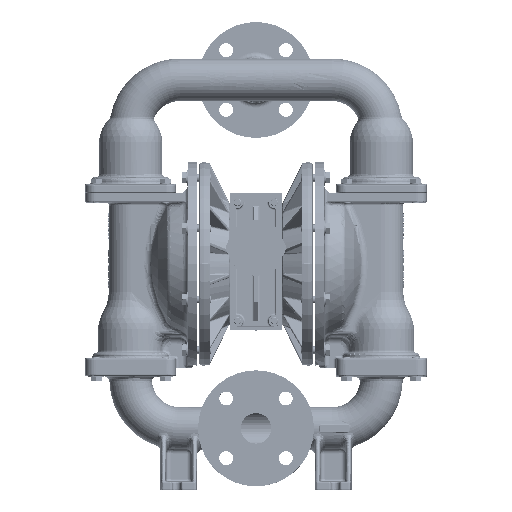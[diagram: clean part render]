
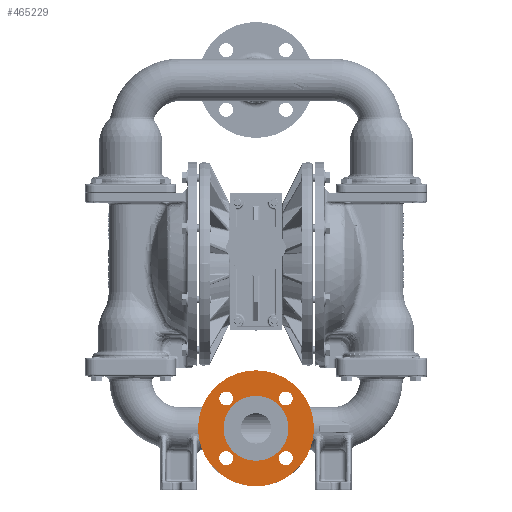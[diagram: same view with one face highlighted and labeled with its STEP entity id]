
A CAD part, top view. The second image highlights one B-rep face of the part: STEP entity #465229.
In plain terms, the highlighted planar face has unit normal (0, 0, 1).
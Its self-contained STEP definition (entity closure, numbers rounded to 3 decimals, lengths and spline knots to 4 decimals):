
#133894=CARTESIAN_POINT('',(0.,-8.385,4.75));
#133895=DIRECTION('',(0.,0.,-1.));
#133896=DIRECTION('',(0.,1.,0.));
#133897=AXIS2_PLACEMENT_3D('',#133894,#133895,#133896);
#133904=CARTESIAN_POINT('',(0.,-8.385,4.75));
#133905=DIRECTION('',(0.,0.,-1.));
#133906=DIRECTION('',(0.,1.,0.));
#133907=AXIS2_PLACEMENT_3D('',#133904,#133905,#133906);
#133909=CARTESIAN_POINT('',(0.,-8.385,4.75));
#133910=DIRECTION('',(0.,0.,1.));
#133911=DIRECTION('',(0.,1.,0.));
#133912=AXIS2_PLACEMENT_3D('',#133909,#133910,#133911);
#133914=CARTESIAN_POINT('',(1.5203,-6.8647,4.75));
#133915=DIRECTION('',(0.,0.,-1.));
#133916=DIRECTION('',(-1.,0.,0.));
#133917=AXIS2_PLACEMENT_3D('',#133914,#133915,#133916);
#133919=CARTESIAN_POINT('',(1.5203,-6.8647,4.75));
#133920=DIRECTION('',(0.,0.,-1.));
#133921=DIRECTION('',(1.,0.,0.));
#133922=AXIS2_PLACEMENT_3D('',#133919,#133920,#133921);
#133924=CARTESIAN_POINT('',(1.5203,-9.9053,4.75));
#133925=DIRECTION('',(0.,0.,-1.));
#133926=DIRECTION('',(-1.,0.,0.));
#133927=AXIS2_PLACEMENT_3D('',#133924,#133925,#133926);
#133929=CARTESIAN_POINT('',(1.5203,-9.9053,4.75));
#133930=DIRECTION('',(0.,0.,-1.));
#133931=DIRECTION('',(1.,0.,0.));
#133932=AXIS2_PLACEMENT_3D('',#133929,#133930,#133931);
#133934=CARTESIAN_POINT('',(-1.5203,-9.9053,4.75));
#133935=DIRECTION('',(0.,0.,-1.));
#133936=DIRECTION('',(-1.,0.,0.));
#133937=AXIS2_PLACEMENT_3D('',#133934,#133935,#133936);
#133939=CARTESIAN_POINT('',(-1.5203,-9.9053,4.75));
#133940=DIRECTION('',(0.,0.,-1.));
#133941=DIRECTION('',(1.,0.,0.));
#133942=AXIS2_PLACEMENT_3D('',#133939,#133940,#133941);
#133944=CARTESIAN_POINT('',(-1.5203,-6.8647,4.75));
#133945=DIRECTION('',(0.,0.,-1.));
#133946=DIRECTION('',(-1.,0.,0.));
#133947=AXIS2_PLACEMENT_3D('',#133944,#133945,#133946);
#133949=CARTESIAN_POINT('',(-1.5203,-6.8647,4.75));
#133950=DIRECTION('',(0.,0.,-1.));
#133951=DIRECTION('',(1.,0.,0.));
#133952=AXIS2_PLACEMENT_3D('',#133949,#133950,#133951);
#133954=CARTESIAN_POINT('',(0.,-8.385,4.75));
#133955=DIRECTION('',(0.,0.,-1.));
#133956=DIRECTION('',(0.,-1.,0.));
#133957=AXIS2_PLACEMENT_3D('',#133954,#133955,#133956);
#340038=CARTESIAN_POINT('',(0.,-6.73,4.75));
#340040=VERTEX_POINT('',#340038);
#340042=CARTESIAN_POINT('',(0.,-10.04,4.75));
#340044=VERTEX_POINT('',#340042);
#340045=CARTESIAN_POINT('',(0.,-5.43,4.75));
#340046=CARTESIAN_POINT('',(0.,-11.34,4.75));
#340047=VERTEX_POINT('',#340045);
#340048=VERTEX_POINT('',#340046);
#340053=CARTESIAN_POINT('',(1.1653,-6.8647,4.75));
#340054=CARTESIAN_POINT('',(1.8753,-6.8647,4.75));
#340055=VERTEX_POINT('',#340053);
#340056=VERTEX_POINT('',#340054);
#340061=CARTESIAN_POINT('',(1.1653,-9.9053,4.75));
#340062=CARTESIAN_POINT('',(1.8753,-9.9053,4.75));
#340063=VERTEX_POINT('',#340061);
#340064=VERTEX_POINT('',#340062);
#340069=CARTESIAN_POINT('',(-1.8753,-9.9053,4.75));
#340070=CARTESIAN_POINT('',(-1.1653,-9.9053,4.75));
#340071=VERTEX_POINT('',#340069);
#340072=VERTEX_POINT('',#340070);
#340077=CARTESIAN_POINT('',(-1.8753,-6.8647,4.75));
#340078=CARTESIAN_POINT('',(-1.1653,-6.8647,4.75));
#340079=VERTEX_POINT('',#340077);
#340080=VERTEX_POINT('',#340078);
#465189=CARTESIAN_POINT('',(0.,-8.385,4.75));
#465190=DIRECTION('',(0.,0.,-1.));
#465191=DIRECTION('',(0.,-1.,0.));
#465192=AXIS2_PLACEMENT_3D('',#465189,#465190,#465191);
#465193=PLANE('',#465192);
#465194=ORIENTED_EDGE('',*,*,#465179,.T.);
#465196=ORIENTED_EDGE('',*,*,#465195,.T.);
#465197=EDGE_LOOP('',(#465194,#465196));
#465198=FACE_OUTER_BOUND('',#465197,.F.);
#465200=ORIENTED_EDGE('',*,*,#465199,.F.);
#465202=ORIENTED_EDGE('',*,*,#465201,.T.);
#465203=EDGE_LOOP('',(#465200,#465202));
#465204=FACE_BOUND('',#465203,.F.);
#465206=ORIENTED_EDGE('',*,*,#465205,.F.);
#465208=ORIENTED_EDGE('',*,*,#465207,.F.);
#465209=EDGE_LOOP('',(#465206,#465208));
#465210=FACE_BOUND('',#465209,.F.);
#465212=ORIENTED_EDGE('',*,*,#465211,.F.);
#465214=ORIENTED_EDGE('',*,*,#465213,.F.);
#465215=EDGE_LOOP('',(#465212,#465214));
#465216=FACE_BOUND('',#465215,.F.);
#465218=ORIENTED_EDGE('',*,*,#465217,.F.);
#465220=ORIENTED_EDGE('',*,*,#465219,.F.);
#465221=EDGE_LOOP('',(#465218,#465220));
#465222=FACE_BOUND('',#465221,.F.);
#465224=ORIENTED_EDGE('',*,*,#465223,.F.);
#465226=ORIENTED_EDGE('',*,*,#465225,.F.);
#465227=EDGE_LOOP('',(#465224,#465226));
#465228=FACE_BOUND('',#465227,.F.);
#465229=ADVANCED_FACE('',(#465198,#465204,#465210,#465216,#465222,#465228),
#465193,.F.);
#133898=CIRCLE('',#133897,2.955);
#133908=CIRCLE('',#133907,1.655);
#133913=CIRCLE('',#133912,1.655);
#133918=CIRCLE('',#133917,0.355);
#133923=CIRCLE('',#133922,0.355);
#133928=CIRCLE('',#133927,0.355);
#133933=CIRCLE('',#133932,0.355);
#133938=CIRCLE('',#133937,0.355);
#133943=CIRCLE('',#133942,0.355);
#133948=CIRCLE('',#133947,0.355);
#133953=CIRCLE('',#133952,0.355);
#133958=CIRCLE('',#133957,2.955);
#465179=EDGE_CURVE('',#340047,#340048,#133898,.T.);
#465195=EDGE_CURVE('',#340048,#340047,#133958,.T.);
#465199=EDGE_CURVE('',#340040,#340044,#133908,.T.);
#465201=EDGE_CURVE('',#340040,#340044,#133913,.T.);
#465205=EDGE_CURVE('',#340055,#340056,#133918,.T.);
#465207=EDGE_CURVE('',#340056,#340055,#133923,.T.);
#465211=EDGE_CURVE('',#340063,#340064,#133928,.T.);
#465213=EDGE_CURVE('',#340064,#340063,#133933,.T.);
#465217=EDGE_CURVE('',#340071,#340072,#133938,.T.);
#465219=EDGE_CURVE('',#340072,#340071,#133943,.T.);
#465223=EDGE_CURVE('',#340079,#340080,#133948,.T.);
#465225=EDGE_CURVE('',#340080,#340079,#133953,.T.);
